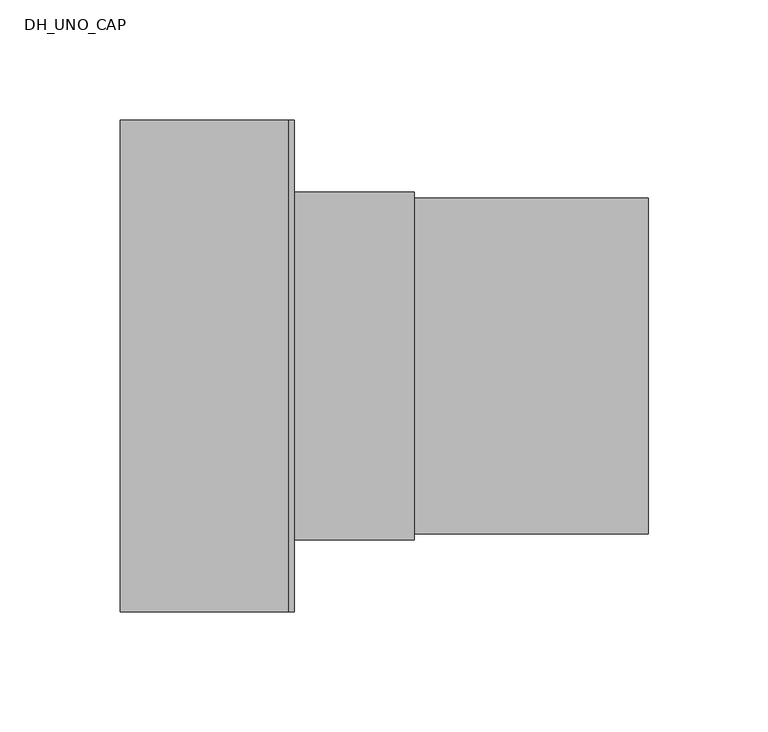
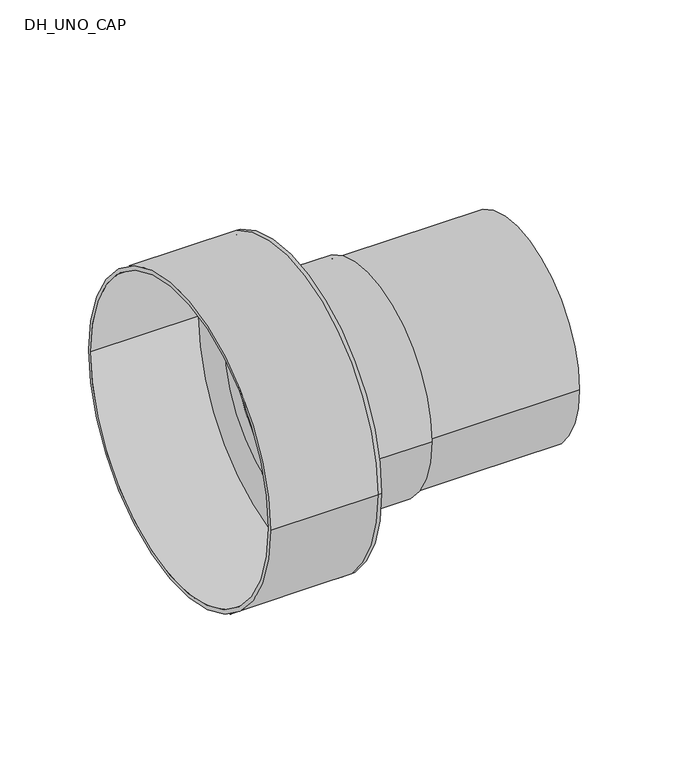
"""IFC4 building model written with IfcOpenShell, lengths in millimetres: pipe fitting geometry, DH_UNO_CAP : INSULPEX UNO 11 Heating - Rubber Cap."""

from ifc_helpers import new_model, si_unit, point, frame, origin, origin_2d, place, context, project, spatial, polyline, circle_curve, trimmed, segment, composite_curve, outline, extrude, source, transform, mapped, element, save
from ifc_brep_helpers import plane_surface, cylinder_surface, revolved_surface, advanced_brep


def dh_uno_cap_2535ad4f(model_context):
    return source(origin(), model_context, "Body", "SolidModel", [
        extrude(outline(composite_curve([segment(trimmed(circle_curve(origin_2d(), 70.0), [point((-70.0, 0.0))], [point((70.0, 0.0))], False, "CARTESIAN"), True, "CONTINUOUS"), segment(trimmed(circle_curve(origin_2d(), 70.0), [point((70.0, 0.0))], [point((-70.0, 0.0))], False, "CARTESIAN"), True, "CONTINUOUS")], self_intersect=False), holes=[composite_curve([segment(trimmed(circle_curve(origin_2d(), 57.3), [point((-57.3, 0.0))], [point((57.3, 0.0))], True, "CARTESIAN"), True, "CONTINUOUS"), segment(trimmed(circle_curve(origin_2d(), 57.3), [point((57.3, 0.0))], [point((-57.3, 0.0))], True, "CARTESIAN"), True, "CONTINUOUS")], self_intersect=False)]), frame((0.0, 0.0, 0.0), z_axis=(1.0, 0.0, 0.0), x_axis=(0.0, 1.0, 0.0)), (0.0, 0.0, 1.0), 150.0),
        advanced_brep(
        [(-70.0, -102.5, 0.0), (-70.0, 102.5, 0.0), (-70.0, -100.0, 0.0), (-70.0, 100.0, 0.0), (0.0, -100.0, 0.0), (0.0, 100.0, 0.0), (0.0, -102.5, 0.0), (0.0, 102.5, 0.0), (0.0, 70.0, 0.0), (0.0, -70.0, 0.0), (2.5, -102.5, 0.0), (2.5, 102.5, 0.0), (2.5, -70.0, 0.0), (2.5, 70.0, 0.0)],
        [
            (0, 1, circle_curve(frame((-70.0, 0.0, 0.0), z_axis=(-1.0, 0.0, 0.0), x_axis=(0.0, 1.0, 0.0)), 102.5)),
            (1, 0, circle_curve(frame((-70.0, 0.0, 0.0), z_axis=(-1.0, 0.0, 0.0), x_axis=(0.0, 1.0, 0.0)), 102.5)),
            (2, 3, circle_curve(frame((-70.0, 0.0, 0.0), z_axis=(1.0, 0.0, 0.0), x_axis=(0.0, 1.0, 0.0)), 100.0)),
            (3, 2, circle_curve(frame((-70.0, 0.0, 0.0), z_axis=(1.0, 0.0, 0.0), x_axis=(0.0, 1.0, 0.0)), 100.0)),
            (2, 4),
            (4, 5, circle_curve(frame((0.0, 0.0, 0.0), z_axis=(1.0, 0.0, 0.0), x_axis=(0.0, 1.0, 0.0)), 100.0)),
            (5, 3),
            (5, 4, circle_curve(frame((0.0, 0.0, 0.0), z_axis=(1.0, 0.0, 0.0), x_axis=(0.0, 1.0, 0.0)), 100.0)),
            (0, 6),
            (6, 7, circle_curve(frame((0.0, 0.0, 0.0), z_axis=(-1.0, 0.0, 0.0), x_axis=(0.0, 1.0, 0.0)), 102.5)),
            (7, 1),
            (7, 6, circle_curve(frame((0.0, 0.0, 0.0), z_axis=(-1.0, 0.0, 0.0), x_axis=(0.0, 1.0, 0.0)), 102.5)),
            (8, 9, circle_curve(frame((0.0, 0.0, 0.0), z_axis=(1.0, 0.0, 0.0), x_axis=(0.0, 1.0, 0.0)), 70.0)),
            (9, 8, circle_curve(frame((0.0, 0.0, 0.0), z_axis=(1.0, 0.0, 0.0), x_axis=(0.0, 1.0, 0.0)), 70.0)),
            (10, 11, circle_curve(frame((2.5, 0.0, 0.0), z_axis=(1.0, 0.0, 0.0), x_axis=(0.0, 1.0, 0.0)), 102.5)),
            (11, 10, circle_curve(frame((2.5, 0.0, 0.0), z_axis=(1.0, 0.0, 0.0), x_axis=(0.0, 1.0, 0.0)), 102.5)),
            (12, 13, circle_curve(frame((2.5, 0.0, 0.0), z_axis=(-1.0, 0.0, 0.0), x_axis=(0.0, 1.0, 0.0)), 70.0)),
            (13, 12, circle_curve(frame((2.5, 0.0, 0.0), z_axis=(-1.0, 0.0, 0.0), x_axis=(0.0, 1.0, 0.0)), 70.0)),
            (11, 7),
            (6, 10),
            (8, 13),
            (12, 9),
        ],
        [
            plane_surface(frame((-70.0, 0.0, 0.0), z_axis=(-1.0, 0.0, 0.0), x_axis=(0.0, 0.0, 1.0))),
            revolved_surface(polyline([(0.0, 100.0, 0.0), (-70.0, 100.0, 0.0)]), (-70.0, 0.0, 0.0), (1.0, 0.0, 0.0)),
            cylinder_surface(frame((-70.0, 0.0, 0.0), z_axis=(-1.0, 0.0, 0.0), x_axis=(0.0, 1.0, 0.0)), 102.5),
            plane_surface(frame((0.0, 0.0, 0.0), z_axis=(-1.0, 0.0, 0.0), x_axis=(0.0, 0.0, 1.0))),
            plane_surface(frame((2.5, 0.0, 0.0), z_axis=(1.0, 0.0, 0.0), x_axis=(0.0, 0.0, 1.0))),
            cylinder_surface(frame((0.0, 0.0, 0.0), z_axis=(-1.0, 0.0, 0.0), x_axis=(0.0, 1.0, 0.0)), 102.5),
            revolved_surface(polyline([(0.0, 70.0, 0.0), (2.5, 70.0, 0.0)]), (0.0, 0.0, 0.0), (-1.0, 0.0, 0.0)),
        ],
        [
            (0, [[1, 2], [3, 4]]),
            (1, [[-3, 5, 6, 7]]),
            (1, [[-4, -7, 8, -5]]),
            (2, [[-1, 9, 10, 11]]),
            (2, [[-2, -11, 12, -9]]),
            (3, [[-6, -8], [13, 14]]),
            (4, [[15, 16], [17, 18]]),
            (5, [[-16, 19, -10, 20]]),
            (5, [[-15, -20, -12, -19]]),
            (6, [[21, -17, 22, -13]]),
            (6, [[-21, -14, -22, -18]]),
        ],
    ),
        extrude(outline(composite_curve([segment(trimmed(circle_curve(origin_2d(), 72.5), [point((-72.5, 0.0))], [point((72.5, 0.0))], False, "CARTESIAN"), True, "CONTINUOUS"), segment(trimmed(circle_curve(origin_2d(), 72.5), [point((72.5, 0.0))], [point((-72.5, 0.0))], False, "CARTESIAN"), True, "CONTINUOUS")], self_intersect=False), holes=[composite_curve([segment(trimmed(circle_curve(origin_2d(), 70.0), [point((-70.0, 0.0))], [point((70.0, 0.0))], True, "CARTESIAN"), True, "CONTINUOUS"), segment(trimmed(circle_curve(origin_2d(), 70.0), [point((70.0, 0.0))], [point((-70.0, 0.0))], True, "CARTESIAN"), True, "CONTINUOUS")], self_intersect=False)]), frame((2.5, 0.0, 0.0), z_axis=(1.0, 0.0, 0.0), x_axis=(0.0, 1.0, 0.0)), (0.0, 0.0, 1.0), 50.0),
    ])


if __name__ == "__main__":
    model = new_model("IFC4")
    model_context = context("Model", 3, world=origin())
    ifc_project = project(units=[si_unit("LENGTHUNIT", "METRE", prefix="MILLI")], contexts=[model_context])
    site = spatial("IfcSite", under=ifc_project)
    building = spatial("IfcBuilding", under=site)
    placement = place(None, origin())
    dh_uno_cap_shape = dh_uno_cap_2535ad4f(model_context)
    element("IfcPipeFitting", 1, ObjectType="DH_UNO_CAP : INSULPEX UNO 11 Heating - Rubber Cap", at=placement, inside=building, context=model_context, shape_type="MappedRepresentation", body=[
        mapped(dh_uno_cap_shape, transform((0.0, 0.0, 0.0), x_axis=(1.0, 0.0, 0.0), y_axis=(0.0, 1.0, 0.0), z_axis=(0.0, 0.0, 1.0))),
    ])
    save(model, "model.ifc")
